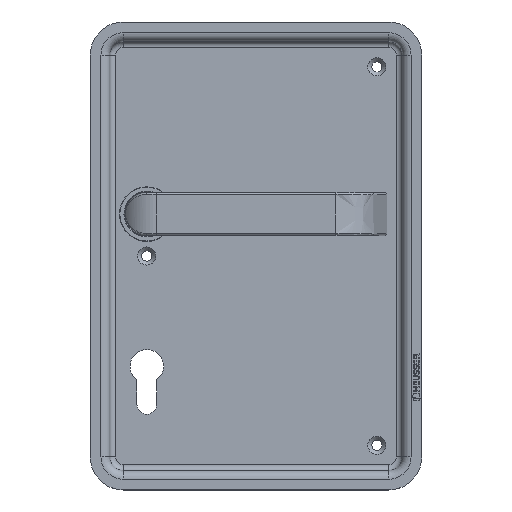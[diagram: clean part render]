
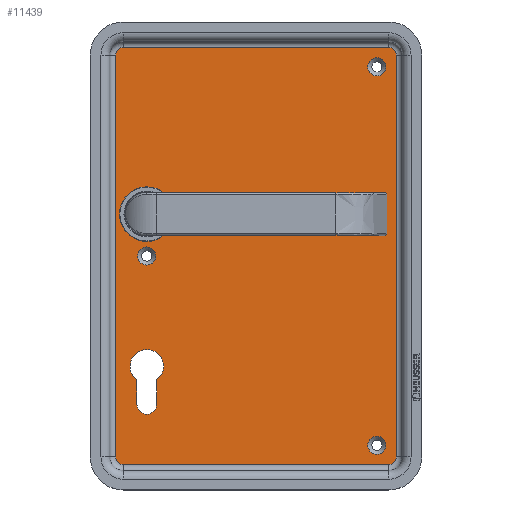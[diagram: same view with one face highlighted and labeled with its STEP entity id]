
A CAD part, top view. The second image highlights one B-rep face of the part: STEP entity #11439.
In plain terms, the highlighted planar face has unit normal (0, 0, 1).
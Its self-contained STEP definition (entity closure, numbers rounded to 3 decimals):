
#731=FACE_BOUND('',#3964,.T.);
#732=FACE_BOUND('',#3965,.T.);
#733=FACE_BOUND('',#3966,.T.);
#734=FACE_BOUND('',#3967,.T.);
#735=FACE_BOUND('',#3968,.T.);
#1363=LINE('',#19034,#2326);
#1367=LINE('',#19044,#2330);
#1648=LINE('',#20583,#2611);
#1649=LINE('',#20587,#2612);
#1650=LINE('',#20591,#2613);
#1651=LINE('',#20595,#2614);
#2326=VECTOR('',#13596,10.);
#2330=VECTOR('',#13608,10.);
#2611=VECTOR('',#14129,10.);
#2612=VECTOR('',#14132,10.);
#2613=VECTOR('',#14135,10.);
#2614=VECTOR('',#14138,10.);
#3284=FACE_OUTER_BOUND('',#3963,.T.);
#3963=EDGE_LOOP('',(#9621,#9622,#9623,#9624,#9625,#9626,#9627,#9628));
#3964=EDGE_LOOP('',(#9629));
#3965=EDGE_LOOP('',(#9630,#9631,#9632,#9633));
#3966=EDGE_LOOP('',(#9634));
#3967=EDGE_LOOP('',(#9635));
#3968=EDGE_LOOP('',(#9636));
#4162=CIRCLE('',#11912,14.);
#4165=CIRCLE('',#11918,8.6);
#4167=CIRCLE('',#11922,5.1);
#4177=CIRCLE('',#12042,4.65);
#4178=CIRCLE('',#12044,4.);
#4179=CIRCLE('',#12045,4.);
#4180=CIRCLE('',#12046,4.);
#4181=CIRCLE('',#12047,4.);
#4182=CIRCLE('',#12048,4.65);
#4183=CIRCLE('',#12049,4.65);
#4914=VERTEX_POINT('',#19015);
#4918=VERTEX_POINT('',#19025);
#4919=VERTEX_POINT('',#19027);
#4921=VERTEX_POINT('',#19033);
#4923=VERTEX_POINT('',#19039);
#5205=VERTEX_POINT('',#20578);
#5206=VERTEX_POINT('',#20581);
#5207=VERTEX_POINT('',#20582);
#5208=VERTEX_POINT('',#20584);
#5209=VERTEX_POINT('',#20586);
#5210=VERTEX_POINT('',#20588);
#5211=VERTEX_POINT('',#20590);
#5212=VERTEX_POINT('',#20592);
#5213=VERTEX_POINT('',#20594);
#5214=VERTEX_POINT('',#20597);
#5215=VERTEX_POINT('',#20599);
#6275=EDGE_CURVE('',#4914,#4914,#4162,.T.);
#6279=EDGE_CURVE('',#4919,#4918,#4165,.T.);
#6282=EDGE_CURVE('',#4921,#4919,#1363,.T.);
#6285=EDGE_CURVE('',#4923,#4921,#4167,.T.);
#6288=EDGE_CURVE('',#4918,#4923,#1367,.T.);
#6702=EDGE_CURVE('',#5205,#5205,#4177,.T.);
#6703=EDGE_CURVE('',#5206,#5207,#1648,.T.);
#6704=EDGE_CURVE('',#5208,#5206,#4178,.T.);
#6705=EDGE_CURVE('',#5209,#5208,#1649,.T.);
#6706=EDGE_CURVE('',#5210,#5209,#4179,.T.);
#6707=EDGE_CURVE('',#5211,#5210,#1650,.T.);
#6708=EDGE_CURVE('',#5212,#5211,#4180,.T.);
#6709=EDGE_CURVE('',#5213,#5212,#1651,.T.);
#6710=EDGE_CURVE('',#5207,#5213,#4181,.T.);
#6711=EDGE_CURVE('',#5214,#5214,#4182,.T.);
#6712=EDGE_CURVE('',#5215,#5215,#4183,.T.);
#9621=ORIENTED_EDGE('',*,*,#6703,.F.);
#9622=ORIENTED_EDGE('',*,*,#6704,.F.);
#9623=ORIENTED_EDGE('',*,*,#6705,.F.);
#9624=ORIENTED_EDGE('',*,*,#6706,.F.);
#9625=ORIENTED_EDGE('',*,*,#6707,.F.);
#9626=ORIENTED_EDGE('',*,*,#6708,.F.);
#9627=ORIENTED_EDGE('',*,*,#6709,.F.);
#9628=ORIENTED_EDGE('',*,*,#6710,.F.);
#9629=ORIENTED_EDGE('',*,*,#6275,.T.);
#9630=ORIENTED_EDGE('',*,*,#6285,.T.);
#9631=ORIENTED_EDGE('',*,*,#6282,.T.);
#9632=ORIENTED_EDGE('',*,*,#6279,.T.);
#9633=ORIENTED_EDGE('',*,*,#6288,.T.);
#9634=ORIENTED_EDGE('',*,*,#6711,.F.);
#9635=ORIENTED_EDGE('',*,*,#6712,.F.);
#9636=ORIENTED_EDGE('',*,*,#6702,.F.);
#10272=PLANE('',#12043);
#11439=ADVANCED_FACE('',(#3284,#731,#732,#733,#734,#735),#10272,.T.);
#11912=AXIS2_PLACEMENT_3D('',#19016,#13577,#13578);
#11918=AXIS2_PLACEMENT_3D('',#19028,#13590,#13591);
#11922=AXIS2_PLACEMENT_3D('',#19040,#13602,#13603);
#12042=AXIS2_PLACEMENT_3D('',#20579,#14125,#14126);
#12043=AXIS2_PLACEMENT_3D('',#20580,#14127,#14128);
#12044=AXIS2_PLACEMENT_3D('',#20585,#14130,#14131);
#12045=AXIS2_PLACEMENT_3D('',#20589,#14133,#14134);
#12046=AXIS2_PLACEMENT_3D('',#20593,#14136,#14137);
#12047=AXIS2_PLACEMENT_3D('',#20596,#14139,#14140);
#12048=AXIS2_PLACEMENT_3D('',#20598,#14141,#14142);
#12049=AXIS2_PLACEMENT_3D('',#20600,#14143,#14144);
#13577=DIRECTION('center_axis',(0.,0.,-1.));
#13578=DIRECTION('ref_axis',(1.,0.,0.));
#13590=DIRECTION('center_axis',(0.,0.,-1.));
#13591=DIRECTION('ref_axis',(-0.593,0.805,0.));
#13596=DIRECTION('',(0.,1.,0.));
#13602=DIRECTION('center_axis',(0.,0.,-1.));
#13603=DIRECTION('ref_axis',(1.,0.,0.));
#13608=DIRECTION('',(0.,-1.,0.));
#14125=DIRECTION('center_axis',(0.,0.,1.));
#14126=DIRECTION('ref_axis',(-1.,0.,0.));
#14127=DIRECTION('center_axis',(0.,0.,1.));
#14128=DIRECTION('ref_axis',(1.,0.,0.));
#14129=DIRECTION('',(0.,1.,0.));
#14130=DIRECTION('center_axis',(0.,0.,-1.));
#14131=DIRECTION('ref_axis',(-0.707,-0.707,0.));
#14132=DIRECTION('',(-1.,0.,0.));
#14133=DIRECTION('center_axis',(0.,0.,-1.));
#14134=DIRECTION('ref_axis',(0.707,-0.707,0.));
#14135=DIRECTION('',(0.,-1.,0.));
#14136=DIRECTION('center_axis',(0.,0.,-1.));
#14137=DIRECTION('ref_axis',(0.707,0.707,0.));
#14138=DIRECTION('',(1.,0.,0.));
#14139=DIRECTION('center_axis',(0.,0.,-1.));
#14140=DIRECTION('ref_axis',(-0.707,0.707,0.));
#14141=DIRECTION('center_axis',(0.,0.,1.));
#14142=DIRECTION('ref_axis',(-1.,0.,0.));
#14143=DIRECTION('center_axis',(0.,0.,1.));
#14144=DIRECTION('ref_axis',(-1.,0.,0.));
#19015=CARTESIAN_POINT('',(-96.796,26.549,-9.));
#19016=CARTESIAN_POINT('Origin',(-82.796,26.549,-9.));
#19025=CARTESIAN_POINT('',(-77.696,-58.376,-9.));
#19027=CARTESIAN_POINT('',(-87.896,-58.376,-9.));
#19028=CARTESIAN_POINT('Origin',(-82.796,-51.451,-9.));
#19033=CARTESIAN_POINT('',(-87.896,-70.951,-9.));
#19034=CARTESIAN_POINT('',(-87.896,-32.951,-9.));
#19039=CARTESIAN_POINT('',(-77.696,-70.951,-9.));
#19040=CARTESIAN_POINT('Origin',(-82.796,-70.951,-9.));
#19044=CARTESIAN_POINT('',(-77.696,-26.664,-9.));
#20578=CARTESIAN_POINT('',(39.854,-91.951,-9.));
#20579=CARTESIAN_POINT('Origin',(35.204,-91.951,-9.));
#20580=CARTESIAN_POINT('Origin',(-26.796,5.049,-9.));
#20581=CARTESIAN_POINT('',(-98.796,-97.951,-9.));
#20582=CARTESIAN_POINT('',(-98.796,108.049,-9.));
#20583=CARTESIAN_POINT('',(-98.796,-46.451,-9.));
#20584=CARTESIAN_POINT('',(-94.796,-101.951,-9.));
#20585=CARTESIAN_POINT('Origin',(-94.796,-97.951,-9.));
#20586=CARTESIAN_POINT('',(41.204,-101.951,-9.));
#20587=CARTESIAN_POINT('',(7.204,-101.951,-9.));
#20588=CARTESIAN_POINT('',(45.204,-97.951,-9.));
#20589=CARTESIAN_POINT('Origin',(41.204,-97.951,-9.));
#20590=CARTESIAN_POINT('',(45.204,108.049,-9.));
#20591=CARTESIAN_POINT('',(45.204,56.549,-9.));
#20592=CARTESIAN_POINT('',(41.204,112.049,-9.));
#20593=CARTESIAN_POINT('Origin',(41.204,108.049,-9.));
#20594=CARTESIAN_POINT('',(-94.796,112.049,-9.));
#20595=CARTESIAN_POINT('',(-60.796,112.049,-9.));
#20596=CARTESIAN_POINT('Origin',(-94.796,108.049,-9.));
#20597=CARTESIAN_POINT('',(-78.146,5.049,-9.));
#20598=CARTESIAN_POINT('Origin',(-82.796,5.049,-9.));
#20599=CARTESIAN_POINT('',(39.854,102.049,-9.));
#20600=CARTESIAN_POINT('Origin',(35.204,102.049,-9.));
